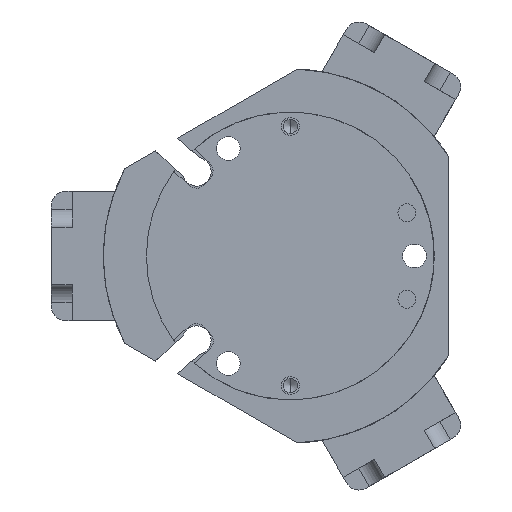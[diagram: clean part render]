
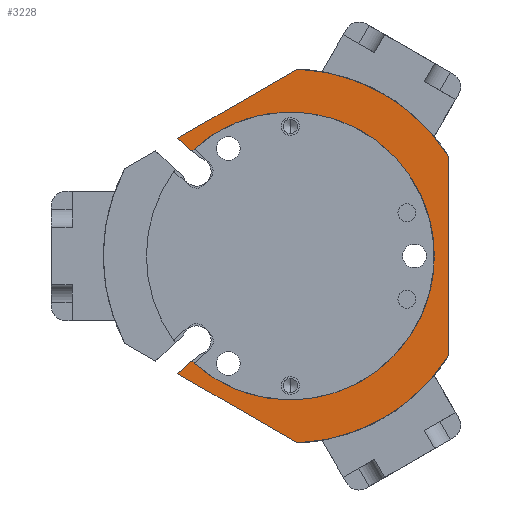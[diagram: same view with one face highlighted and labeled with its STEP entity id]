
A CAD part, front view. The second image highlights one B-rep face of the part: STEP entity #3228.
In plain terms, the highlighted planar face has unit normal (0, -1, 0).
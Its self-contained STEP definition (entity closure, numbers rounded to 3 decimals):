
#212 = EDGE_CURVE ( 'NONE', #8625, #13351, #614, .T. ) ;
#614 = CIRCLE ( 'NONE', #6338, 26. ) ;
#1556 = CARTESIAN_POINT ( 'NONE',  ( 22., -13.5, -13.856 ) ) ;
#1704 = EDGE_LOOP ( 'NONE', ( #8256, #23349, #22151, #21648, #13417, #20743, #11403, #19151, #10470, #9483 ) ) ;
#2098 = EDGE_CURVE ( 'NONE', #5698, #8621, #23040, .T. ) ;
#2189 = FACE_OUTER_BOUND ( 'NONE', #1704, .T. ) ;
#2343 = CARTESIAN_POINT ( 'NONE',  ( 0., -13.5, 0. ) ) ;
#2379 = EDGE_CURVE ( 'NONE', #13351, #9933, #21480, .T. ) ;
#2403 = EDGE_CURVE ( 'NONE', #21869, #22822, #17739, .T. ) ;
#3138 = CIRCLE ( 'NONE', #18848, 20. ) ;
#3228 = ADVANCED_FACE ( 'NONE', ( #2189 ), #5915, .T. ) ;
#3333 = DIRECTION ( 'NONE',  ( 0.743, 0., 0.669 ) ) ;
#3588 = CARTESIAN_POINT ( 'NONE',  ( -12.65, -13.5, -13.678 ) ) ;
#3887 = CARTESIAN_POINT ( 'NONE',  ( -15.643, -13.5, -16.372 ) ) ;
#4375 = EDGE_CURVE ( 'NONE', #18432, #21869, #7721, .T. ) ;
#4572 = DIRECTION ( 'NONE',  ( 0., -1., 0. ) ) ;
#5244 = CARTESIAN_POINT ( 'NONE',  ( 0., -13.5, 20. ) ) ;
#5294 = AXIS2_PLACEMENT_3D ( 'NONE', #16210, #6336, #16128 ) ;
#5368 = CARTESIAN_POINT ( 'NONE',  ( 0., -13.5, -20. ) ) ;
#5698 = VERTEX_POINT ( 'NONE', #8703 ) ;
#5787 = EDGE_CURVE ( 'NONE', #9933, #18432, #23790, .T. ) ;
#5859 = DIRECTION ( 'NONE',  ( -0.866, 0., -0.5 ) ) ;
#5875 = DIRECTION ( 'NONE',  ( 0.866, 0., -0.5 ) ) ;
#5905 = CIRCLE ( 'NONE', #23661, 20. ) ;
#5915 = PLANE ( 'NONE',  #15666 ) ;
#6336 = DIRECTION ( 'NONE',  ( 0., -1., 0. ) ) ;
#6338 = AXIS2_PLACEMENT_3D ( 'NONE', #2343, #18038, #24110 ) ;
#6642 = DIRECTION ( 'NONE',  ( 0., -1., 0. ) ) ;
#7721 = LINE ( 'NONE', #24088, #20466 ) ;
#7930 = CARTESIAN_POINT ( 'NONE',  ( 0., -13.5, 0. ) ) ;
#8256 = ORIENTED_EDGE ( 'NONE', *, *, #5787, .T. ) ;
#8621 = VERTEX_POINT ( 'NONE', #24879 ) ;
#8625 = VERTEX_POINT ( 'NONE', #8833 ) ;
#8703 = CARTESIAN_POINT ( 'NONE',  ( -15.643, -13.5, -16.372 ) ) ;
#8833 = CARTESIAN_POINT ( 'NONE',  ( 1., -13.5, -25.981 ) ) ;
#9081 = EDGE_CURVE ( 'NONE', #23846, #22822, #3138, .T. ) ;
#9248 = CARTESIAN_POINT ( 'NONE',  ( -15.643, -13.5, 16.372 ) ) ;
#9483 = ORIENTED_EDGE ( 'NONE', *, *, #2379, .T. ) ;
#9695 = EDGE_CURVE ( 'NONE', #20416, #23846, #5905, .T. ) ;
#9933 = VERTEX_POINT ( 'NONE', #10714 ) ;
#10196 = CARTESIAN_POINT ( 'NONE',  ( 0., -13.5, 0. ) ) ;
#10382 = DIRECTION ( 'NONE',  ( 0., 0., -1. ) ) ;
#10470 = ORIENTED_EDGE ( 'NONE', *, *, #212, .T. ) ;
#10714 = CARTESIAN_POINT ( 'NONE',  ( 22., -13.5, 13.856 ) ) ;
#11020 = CARTESIAN_POINT ( 'NONE',  ( 1., -13.5, 25.981 ) ) ;
#11320 = CARTESIAN_POINT ( 'NONE',  ( 22., -13.5, 0. ) ) ;
#11403 = ORIENTED_EDGE ( 'NONE', *, *, #2098, .F. ) ;
#12374 = CARTESIAN_POINT ( 'NONE',  ( 0., -13.5, 0. ) ) ;
#12443 = VECTOR ( 'NONE', #18994, 1000. ) ;
#13351 = VERTEX_POINT ( 'NONE', #1556 ) ;
#13417 = ORIENTED_EDGE ( 'NONE', *, *, #9695, .F. ) ;
#13692 = VECTOR ( 'NONE', #15240, 1000. ) ;
#15240 = DIRECTION ( 'NONE',  ( 0., 0., 1. ) ) ;
#15666 = AXIS2_PLACEMENT_3D ( 'NONE', #7930, #19731, #17887 ) ;
#15727 = CARTESIAN_POINT ( 'NONE',  ( -15.643, -13.5, 16.372 ) ) ;
#16027 = EDGE_CURVE ( 'NONE', #8621, #20416, #20420, .T. ) ;
#16128 = DIRECTION ( 'NONE',  ( 0., 0., -1. ) ) ;
#16210 = CARTESIAN_POINT ( 'NONE',  ( 0., -13.5, 0. ) ) ;
#16349 = DIRECTION ( 'NONE',  ( 0., 0., 1. ) ) ;
#16433 = CARTESIAN_POINT ( 'NONE',  ( 0., -13.5, 0. ) ) ;
#16686 = DIRECTION ( 'NONE',  ( 0., -1., 0. ) ) ;
#17739 = LINE ( 'NONE', #9248, #12443 ) ;
#17887 = DIRECTION ( 'NONE',  ( 0., 0., -1. ) ) ;
#18038 = DIRECTION ( 'NONE',  ( 0., -1., 0. ) ) ;
#18432 = VERTEX_POINT ( 'NONE', #11020 ) ;
#18848 = AXIS2_PLACEMENT_3D ( 'NONE', #12374, #4572, #10382 ) ;
#18994 = DIRECTION ( 'NONE',  ( 0.743, 0., -0.669 ) ) ;
#19151 = ORIENTED_EDGE ( 'NONE', *, *, #25488, .T. ) ;
#19731 = DIRECTION ( 'NONE',  ( 0., -1., 0. ) ) ;
#20339 = CARTESIAN_POINT ( 'NONE',  ( -13.672, -13.5, 14.598 ) ) ;
#20416 = VERTEX_POINT ( 'NONE', #5368 ) ;
#20420 = CIRCLE ( 'NONE', #5294, 20. ) ;
#20466 = VECTOR ( 'NONE', #5859, 1000. ) ;
#20743 = ORIENTED_EDGE ( 'NONE', *, *, #16027, .F. ) ;
#21385 = AXIS2_PLACEMENT_3D ( 'NONE', #16433, #16686, #16349 ) ;
#21480 = LINE ( 'NONE', #11320, #13692 ) ;
#21648 = ORIENTED_EDGE ( 'NONE', *, *, #9081, .F. ) ;
#21869 = VERTEX_POINT ( 'NONE', #15727 ) ;
#22151 = ORIENTED_EDGE ( 'NONE', *, *, #2403, .T. ) ;
#22822 = VERTEX_POINT ( 'NONE', #20339 ) ;
#23040 = LINE ( 'NONE', #3588, #24580 ) ;
#23349 = ORIENTED_EDGE ( 'NONE', *, *, #4375, .T. ) ;
#23661 = AXIS2_PLACEMENT_3D ( 'NONE', #10196, #6642, #24096 ) ;
#23790 = CIRCLE ( 'NONE', #21385, 26. ) ;
#23806 = VECTOR ( 'NONE', #5875, 1000. ) ;
#23846 = VERTEX_POINT ( 'NONE', #5244 ) ;
#24088 = CARTESIAN_POINT ( 'NONE',  ( 1., -13.5, 25.981 ) ) ;
#24096 = DIRECTION ( 'NONE',  ( 0., 0., -1. ) ) ;
#24110 = DIRECTION ( 'NONE',  ( 0., 0., 1. ) ) ;
#24421 = LINE ( 'NONE', #3887, #23806 ) ;
#24580 = VECTOR ( 'NONE', #3333, 1000. ) ;
#24879 = CARTESIAN_POINT ( 'NONE',  ( -13.672, -13.5, -14.598 ) ) ;
#25488 = EDGE_CURVE ( 'NONE', #5698, #8625, #24421, .T. ) ;
